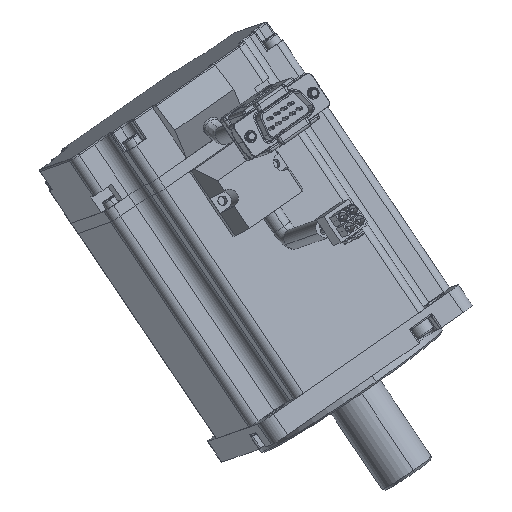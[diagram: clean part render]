
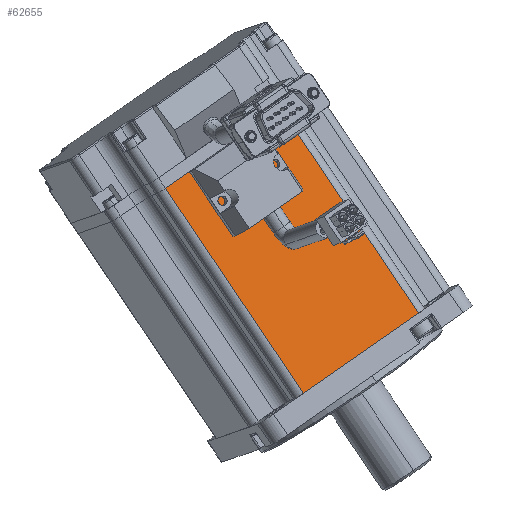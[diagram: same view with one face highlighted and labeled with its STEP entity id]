
A CAD part, front view. The second image highlights one B-rep face of the part: STEP entity #62655.
In plain terms, the highlighted planar face has unit normal (0.226, -0.971, 0.079) as drawn and (1, 0, 0) by its records, which use the part's own axes.
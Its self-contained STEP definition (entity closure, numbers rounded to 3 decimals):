
#997 = VERTEX_POINT ( 'NONE', #26480 ) ;
#1153 = DIRECTION ( 'NONE',  ( 0., 1., 0. ) ) ;
#4650 = EDGE_LOOP ( 'NONE', ( #49082, #21931, #24157, #11287 ) ) ;
#11287 = ORIENTED_EDGE ( 'NONE', *, *, #28356, .T. ) ;
#14644 = LINE ( 'NONE', #49550, #41361 ) ;
#21041 = CARTESIAN_POINT ( 'NONE',  ( 40., -23., 87. ) ) ;
#21315 = EDGE_CURVE ( 'NONE', #56030, #997, #31156, .T. ) ;
#21931 = ORIENTED_EDGE ( 'NONE', *, *, #21315, .T. ) ;
#23737 = EDGE_CURVE ( 'NONE', #64206, #56030, #54659, .T. ) ;
#24157 = ORIENTED_EDGE ( 'NONE', *, *, #36841, .T. ) ;
#24483 = DIRECTION ( 'NONE',  ( 0., -1., 0. ) ) ;
#26480 = CARTESIAN_POINT ( 'NONE',  ( 40., 23., 8. ) ) ;
#27540 = CARTESIAN_POINT ( 'NONE',  ( 40., 40., 8. ) ) ;
#28356 = EDGE_CURVE ( 'NONE', #44701, #64206, #14644, .T. ) ;
#28795 = DIRECTION ( 'NONE',  ( 0., -1., 0. ) ) ;
#31156 = LINE ( 'NONE', #27540, #48250 ) ;
#33227 = LINE ( 'NONE', #37217, #54478 ) ;
#33429 = CARTESIAN_POINT ( 'NONE',  ( 40., 40., 8. ) ) ;
#34734 = DIRECTION ( 'NONE',  ( -1., 0., 0. ) ) ;
#36841 = EDGE_CURVE ( 'NONE', #997, #44701, #33227, .T. ) ;
#37217 = CARTESIAN_POINT ( 'NONE',  ( 40., 23., 87. ) ) ;
#41361 = VECTOR ( 'NONE', #24483, 1000. ) ;
#44701 = VERTEX_POINT ( 'NONE', #62112 ) ;
#45447 = AXIS2_PLACEMENT_3D ( 'NONE', #33429, #34734, #28795 ) ;
#47030 = CARTESIAN_POINT ( 'NONE',  ( 40., -23., 8. ) ) ;
#47767 = DIRECTION ( 'NONE',  ( 0., 0., 1. ) ) ;
#48250 = VECTOR ( 'NONE', #1153, 1000. ) ;
#49082 = ORIENTED_EDGE ( 'NONE', *, *, #23737, .T. ) ;
#49239 = FACE_OUTER_BOUND ( 'NONE', #4650, .T. ) ;
#49550 = CARTESIAN_POINT ( 'NONE',  ( 40., 26., 87. ) ) ;
#50081 = CARTESIAN_POINT ( 'NONE',  ( 40., -23., 8. ) ) ;
#54478 = VECTOR ( 'NONE', #47767, 1000. ) ;
#54659 = LINE ( 'NONE', #50081, #61081 ) ;
#55304 = DIRECTION ( 'NONE',  ( 0., 0., -1. ) ) ;
#56030 = VERTEX_POINT ( 'NONE', #47030 ) ;
#58750 = PLANE ( 'NONE',  #45447 ) ;
#61081 = VECTOR ( 'NONE', #55304, 1000. ) ;
#62112 = CARTESIAN_POINT ( 'NONE',  ( 40., 23., 87. ) ) ;
#62655 = ADVANCED_FACE ( 'NONE', ( #49239 ), #58750, .F. ) ;
#64206 = VERTEX_POINT ( 'NONE', #21041 ) ;
